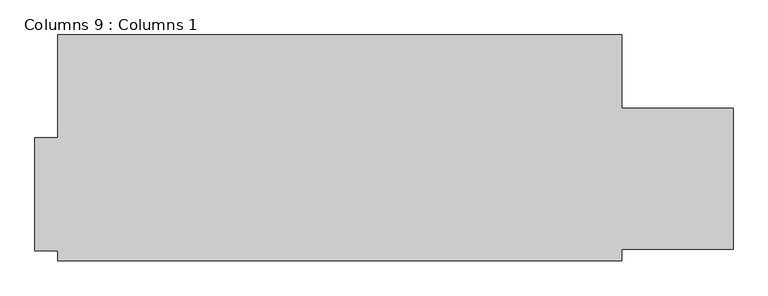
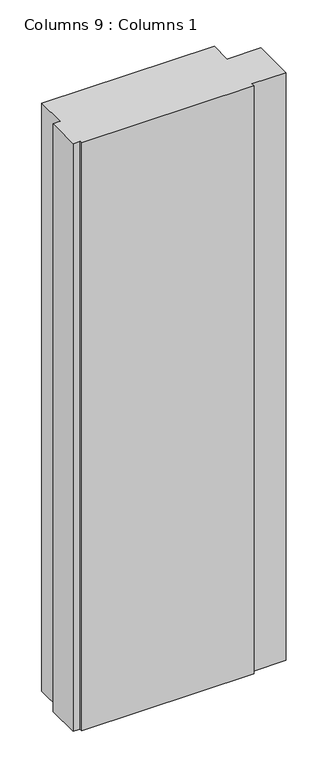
"""IFC4 building model written with IfcOpenShell, lengths in millimetres: column geometry, Columns 9 : Columns 1."""

from ifc_helpers import new_model, si_unit, origin, origin_with_axes, place, context, project, spatial, polyline, outline, extrude, source, transform, mapped, element, save


def columns_9_columns_1_d757668a(model_context):
    return source(origin(), model_context, "Body", "SweptSolid", [
        extrude(outline(polyline([(-15010.0287414, 117117.8696624), (-15010.0287414, 117135.7591334), (-15051.1085473, 117135.7591334), (-15051.1085473, 117338.9591334), (-15010.0287414, 117338.9591334), (-15010.0287414, 117524.2696624), (-13994.0287414, 117524.2696624), (-13994.0287414, 117392.218307), (-13793.8085473, 117392.218307), (-13793.8085473, 117138.218307), (-13994.0287414, 117138.218307), (-13994.0287414, 117117.8696624), (-15010.0287414, 117117.8696624)])), origin_with_axes(), (0.0, 0.0, 1.0), 3657.6),
    ])


if __name__ == "__main__":
    model = new_model("IFC4")
    model_context = context("Model", 3, world=origin())
    ifc_project = project(units=[si_unit("LENGTHUNIT", "METRE", prefix="MILLI")], contexts=[model_context])
    site = spatial("IfcSite", under=ifc_project)
    building = spatial("IfcBuilding", under=site)
    placement = place(None, origin())
    columns_9_columns_1_shape = columns_9_columns_1_d757668a(model_context)
    element("IfcColumn", 1, ObjectType="Columns 9 : Columns 1", at=placement, inside=building, context=model_context, shape_type="MappedRepresentation", body=[
        mapped(columns_9_columns_1_shape, transform((0.0, 0.0, 0.0), x_axis=(1.0, 0.0, 0.0), y_axis=(0.0, 1.0, 0.0), z_axis=(0.0, 0.0, 1.0))),
    ])
    save(model, "model.ifc")
